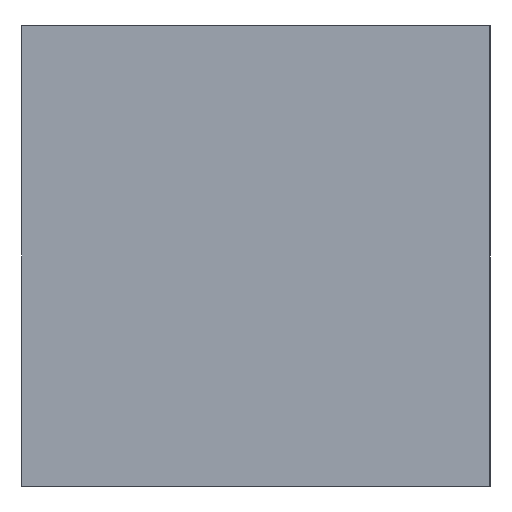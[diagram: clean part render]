
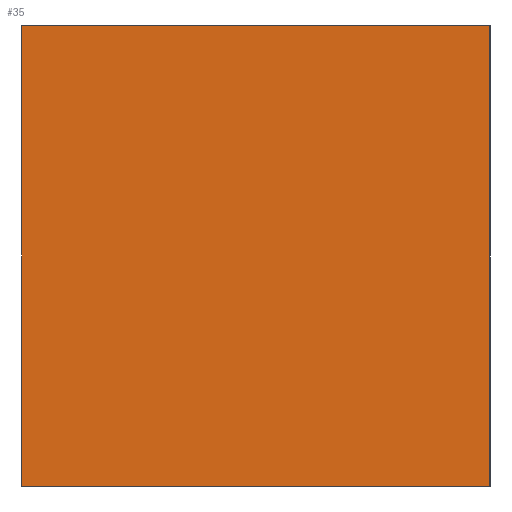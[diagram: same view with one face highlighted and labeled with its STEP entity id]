
A CAD part, left-side view. The second image highlights one B-rep face of the part: STEP entity #35.
In plain terms, the highlighted planar face has unit normal (-1, 0, 0).
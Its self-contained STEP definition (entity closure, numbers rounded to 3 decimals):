
#35 = ADVANCED_FACE('',(#36),#50,.F.);
#36 = FACE_BOUND('',#37,.F.);
#37 = EDGE_LOOP('',(#38,#73,#101,#129));
#38 = ORIENTED_EDGE('',*,*,#39,.F.);
#39 = EDGE_CURVE('',#40,#42,#44,.T.);
#40 = VERTEX_POINT('',#41);
#41 = CARTESIAN_POINT('',(-87.225,10.859,216.925));
#42 = VERTEX_POINT('',#43);
#43 = CARTESIAN_POINT('',(-87.225,10.859,284.174));
#44 = SURFACE_CURVE('',#45,(#49,#61),.PCURVE_S1.);
#45 = LINE('',#46,#47);
#46 = CARTESIAN_POINT('',(-87.225,10.859,216.925));
#47 = VECTOR('',#48,1.);
#48 = DIRECTION('',(0.,0.,1.));
#49 = PCURVE('',#50,#55);
#50 = PLANE('',#51);
#51 = AXIS2_PLACEMENT_3D('',#52,#53,#54);
#52 = CARTESIAN_POINT('',(-87.225,10.859,216.925));
#53 = DIRECTION('',(1.,0.,0.));
#54 = DIRECTION('',(0.,0.,1.));
#55 = DEFINITIONAL_REPRESENTATION('',(#56),#60);
#56 = LINE('',#57,#58);
#57 = CARTESIAN_POINT('',(0.,0.));
#58 = VECTOR('',#59,1.);
#59 = DIRECTION('',(1.,0.));
#60 = ( GEOMETRIC_REPRESENTATION_CONTEXT(2) 
PARAMETRIC_REPRESENTATION_CONTEXT() REPRESENTATION_CONTEXT('2D SPACE',''
  ) );
#61 = PCURVE('',#62,#67);
#62 = PLANE('',#63);
#63 = AXIS2_PLACEMENT_3D('',#64,#65,#66);
#64 = CARTESIAN_POINT('',(-87.225,10.859,216.925));
#65 = DIRECTION('',(0.,1.,0.));
#66 = DIRECTION('',(0.,0.,1.));
#67 = DEFINITIONAL_REPRESENTATION('',(#68),#72);
#68 = LINE('',#69,#70);
#69 = CARTESIAN_POINT('',(0.,0.));
#70 = VECTOR('',#71,1.);
#71 = DIRECTION('',(1.,0.));
#72 = ( GEOMETRIC_REPRESENTATION_CONTEXT(2) 
PARAMETRIC_REPRESENTATION_CONTEXT() REPRESENTATION_CONTEXT('2D SPACE',''
  ) );
#73 = ORIENTED_EDGE('',*,*,#74,.T.);
#74 = EDGE_CURVE('',#40,#75,#77,.T.);
#75 = VERTEX_POINT('',#76);
#76 = CARTESIAN_POINT('',(-87.225,79.269,216.925));
#77 = SURFACE_CURVE('',#78,(#82,#89),.PCURVE_S1.);
#78 = LINE('',#79,#80);
#79 = CARTESIAN_POINT('',(-87.225,10.859,216.925));
#80 = VECTOR('',#81,1.);
#81 = DIRECTION('',(0.,1.,0.));
#82 = PCURVE('',#50,#83);
#83 = DEFINITIONAL_REPRESENTATION('',(#84),#88);
#84 = LINE('',#85,#86);
#85 = CARTESIAN_POINT('',(0.,0.));
#86 = VECTOR('',#87,1.);
#87 = DIRECTION('',(0.,-1.));
#88 = ( GEOMETRIC_REPRESENTATION_CONTEXT(2) 
PARAMETRIC_REPRESENTATION_CONTEXT() REPRESENTATION_CONTEXT('2D SPACE',''
  ) );
#89 = PCURVE('',#90,#95);
#90 = PLANE('',#91);
#91 = AXIS2_PLACEMENT_3D('',#92,#93,#94);
#92 = CARTESIAN_POINT('',(-87.225,10.859,216.925));
#93 = DIRECTION('',(0.,0.,1.));
#94 = DIRECTION('',(1.,0.,0.));
#95 = DEFINITIONAL_REPRESENTATION('',(#96),#100);
#96 = LINE('',#97,#98);
#97 = CARTESIAN_POINT('',(0.,0.));
#98 = VECTOR('',#99,1.);
#99 = DIRECTION('',(0.,1.));
#100 = ( GEOMETRIC_REPRESENTATION_CONTEXT(2) 
PARAMETRIC_REPRESENTATION_CONTEXT() REPRESENTATION_CONTEXT('2D SPACE',''
  ) );
#101 = ORIENTED_EDGE('',*,*,#102,.T.);
#102 = EDGE_CURVE('',#75,#103,#105,.T.);
#103 = VERTEX_POINT('',#104);
#104 = CARTESIAN_POINT('',(-87.225,79.269,284.174));
#105 = SURFACE_CURVE('',#106,(#110,#117),.PCURVE_S1.);
#106 = LINE('',#107,#108);
#107 = CARTESIAN_POINT('',(-87.225,79.269,216.925));
#108 = VECTOR('',#109,1.);
#109 = DIRECTION('',(0.,0.,1.));
#110 = PCURVE('',#50,#111);
#111 = DEFINITIONAL_REPRESENTATION('',(#112),#116);
#112 = LINE('',#113,#114);
#113 = CARTESIAN_POINT('',(0.,-68.41));
#114 = VECTOR('',#115,1.);
#115 = DIRECTION('',(1.,0.));
#116 = ( GEOMETRIC_REPRESENTATION_CONTEXT(2) 
PARAMETRIC_REPRESENTATION_CONTEXT() REPRESENTATION_CONTEXT('2D SPACE',''
  ) );
#117 = PCURVE('',#118,#123);
#118 = PLANE('',#119);
#119 = AXIS2_PLACEMENT_3D('',#120,#121,#122);
#120 = CARTESIAN_POINT('',(-87.225,79.269,216.925));
#121 = DIRECTION('',(0.,1.,0.));
#122 = DIRECTION('',(0.,0.,1.));
#123 = DEFINITIONAL_REPRESENTATION('',(#124),#128);
#124 = LINE('',#125,#126);
#125 = CARTESIAN_POINT('',(0.,0.));
#126 = VECTOR('',#127,1.);
#127 = DIRECTION('',(1.,0.));
#128 = ( GEOMETRIC_REPRESENTATION_CONTEXT(2) 
PARAMETRIC_REPRESENTATION_CONTEXT() REPRESENTATION_CONTEXT('2D SPACE',''
  ) );
#129 = ORIENTED_EDGE('',*,*,#130,.F.);
#130 = EDGE_CURVE('',#42,#103,#131,.T.);
#131 = SURFACE_CURVE('',#132,(#136,#143),.PCURVE_S1.);
#132 = LINE('',#133,#134);
#133 = CARTESIAN_POINT('',(-87.225,10.859,284.174));
#134 = VECTOR('',#135,1.);
#135 = DIRECTION('',(0.,1.,0.));
#136 = PCURVE('',#50,#137);
#137 = DEFINITIONAL_REPRESENTATION('',(#138),#142);
#138 = LINE('',#139,#140);
#139 = CARTESIAN_POINT('',(67.249,0.));
#140 = VECTOR('',#141,1.);
#141 = DIRECTION('',(0.,-1.));
#142 = ( GEOMETRIC_REPRESENTATION_CONTEXT(2) 
PARAMETRIC_REPRESENTATION_CONTEXT() REPRESENTATION_CONTEXT('2D SPACE',''
  ) );
#143 = PCURVE('',#144,#149);
#144 = PLANE('',#145);
#145 = AXIS2_PLACEMENT_3D('',#146,#147,#148);
#146 = CARTESIAN_POINT('',(-87.225,10.859,284.174));
#147 = DIRECTION('',(0.,0.,1.));
#148 = DIRECTION('',(1.,0.,0.));
#149 = DEFINITIONAL_REPRESENTATION('',(#150),#154);
#150 = LINE('',#151,#152);
#151 = CARTESIAN_POINT('',(0.,0.));
#152 = VECTOR('',#153,1.);
#153 = DIRECTION('',(0.,1.));
#154 = ( GEOMETRIC_REPRESENTATION_CONTEXT(2) 
PARAMETRIC_REPRESENTATION_CONTEXT() REPRESENTATION_CONTEXT('2D SPACE',''
  ) );
